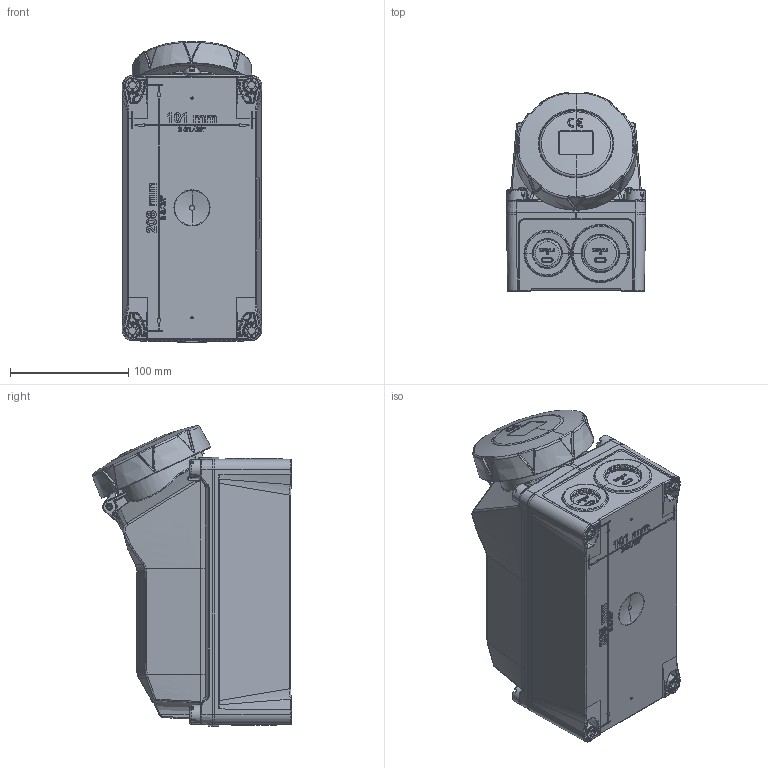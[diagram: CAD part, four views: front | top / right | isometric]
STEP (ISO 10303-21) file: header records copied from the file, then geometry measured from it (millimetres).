
FILE_DESCRIPTION((''),'2;1');
FILE_NAME('C00009131_SW0004','2025-12-18T11:58:27',('kremer'),('MENNEKES'),'CREO PARAMETRIC BY PTC INC, 2024153','CREO PARAMETRIC BY PTC INC, 2024153','');
FILE_SCHEMA(('AUTOMOTIVE_DESIGN { 1 0 10303 214 1 1 1 1 }'));
Products named in the file (1): C00009131_SW0004
Bounding box: 118 x 168.65 x 255.06 mm (x, y, z)
Volume: 3247929.2 mm3; surface area: 168385.9 mm2
Topology: 1 solids, 1 shells, 3675 faces, 9090 edges, 5522 vertices
Faces by surface type: bspline 1156, plane 911, cylinder 605, extrusion 528, torus 209, cone 136, sphere 130
Entity records: 213729 total; most frequent: CARTESIAN_POINT 82340, ORIENTED_EDGE 18148, PRESENTATION_STYLE_ASSIGNMENT 13278, DIRECTION 12137, STYLED_ITEM 9603, CURVE_STYLE 9602, EDGE_CURVE 9074, VERTEX_POINT 5522
